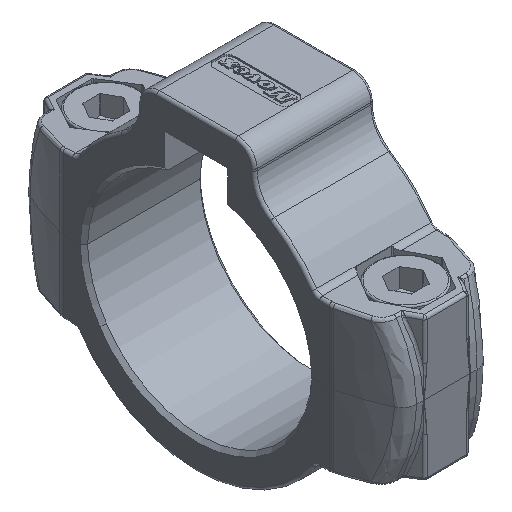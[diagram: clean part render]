
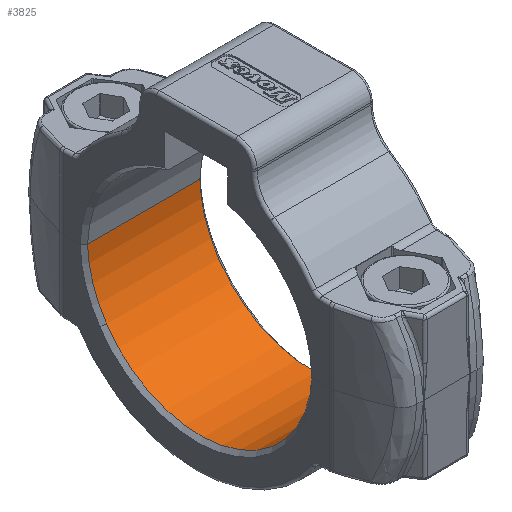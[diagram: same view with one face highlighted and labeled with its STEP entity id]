
A CAD part, isometric view. The second image highlights one B-rep face of the part: STEP entity #3825.
In plain terms, the highlighted cylindrical face has radius 15 mm (diameter 30 mm), a partial arc.
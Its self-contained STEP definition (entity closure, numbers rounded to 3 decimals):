
#2645=CARTESIAN_POINT('Vertex',(-7.5,-14.995,0.4)) ;
#2648=CARTESIAN_POINT('Line Origine',(0.,-14.995,0.4)) ;
#2652=CARTESIAN_POINT('Vertex',(7.5,-14.995,0.4)) ;
#3767=CARTESIAN_POINT('Axis2P3D Location',(-7.5,0.,0.)) ;
#3771=CARTESIAN_POINT('Vertex',(-7.5,-12.456,8.358)) ;
#3786=CARTESIAN_POINT('Axis2P3D Location',(0.,0.,0.)) ;
#3791=CARTESIAN_POINT('Axis2P3D Location',(-7.5,0.,0.)) ;
#3795=CARTESIAN_POINT('Vertex',(-7.5,14.995,0.4)) ;
#3798=CARTESIAN_POINT('Line Origine',(0.,14.995,0.4)) ;
#3802=CARTESIAN_POINT('Vertex',(7.5,14.995,0.4)) ;
#3805=CARTESIAN_POINT('Axis2P3D Location',(7.5,0.,0.)) ;
#3809=CARTESIAN_POINT('Vertex',(7.5,-12.456,8.358)) ;
#3812=CARTESIAN_POINT('Axis2P3D Location',(7.5,0.,0.)) ;
#2649=DIRECTION('Vector Direction',(1.,0.,0.)) ;
#3768=DIRECTION('Axis2P3D Direction',(-1.,0.,0.)) ;
#3787=DIRECTION('Axis2P3D Direction',(1.,0.,-0.)) ;
#3788=DIRECTION('Axis2P3D XDirection',(0.,1.,0.027)) ;
#3792=DIRECTION('Axis2P3D Direction',(1.,0.,-0.)) ;
#3799=DIRECTION('Vector Direction',(1.,0.,0.)) ;
#3806=DIRECTION('Axis2P3D Direction',(1.,0.,-0.)) ;
#3813=DIRECTION('Axis2P3D Direction',(1.,0.,-0.)) ;
#3769=AXIS2_PLACEMENT_3D('Circle Axis2P3D',#3767,#3768,$) ;
#3789=AXIS2_PLACEMENT_3D('Cylinder Axis2P3D',#3786,#3787,#3788) ;
#3793=AXIS2_PLACEMENT_3D('Circle Axis2P3D',#3791,#3792,$) ;
#3807=AXIS2_PLACEMENT_3D('Circle Axis2P3D',#3805,#3806,$) ;
#3814=AXIS2_PLACEMENT_3D('Circle Axis2P3D',#3812,#3813,$) ;
#3818=ORIENTED_EDGE('',*,*,#3773,.T.) ;
#3819=ORIENTED_EDGE('',*,*,#3797,.T.) ;
#3820=ORIENTED_EDGE('',*,*,#3804,.T.) ;
#3821=ORIENTED_EDGE('',*,*,#3811,.F.) ;
#3822=ORIENTED_EDGE('',*,*,#3816,.F.) ;
#3823=ORIENTED_EDGE('',*,*,#2654,.F.) ;
#2650=VECTOR('Line Direction',#2649,1.) ;
#3800=VECTOR('Line Direction',#3799,1.) ;
#3825=ADVANCED_FACE('PartBody',(#3824),#3790,.F.) ;
#3770=CIRCLE('generated circle',#3769,15.) ;
#3794=CIRCLE('generated circle',#3793,15.) ;
#3808=CIRCLE('generated circle',#3807,15.) ;
#3815=CIRCLE('generated circle',#3814,15.) ;
#3790=CYLINDRICAL_SURFACE('generated cylinder',#3789,15.) ;
#2654=EDGE_CURVE('',#2646,#2653,#2651,.T.) ;
#3773=EDGE_CURVE('',#2646,#3772,#3770,.T.) ;
#3797=EDGE_CURVE('',#3772,#3796,#3794,.F.) ;
#3804=EDGE_CURVE('',#3796,#3803,#3801,.T.) ;
#3811=EDGE_CURVE('',#3810,#3803,#3808,.F.) ;
#3816=EDGE_CURVE('',#2653,#3810,#3815,.F.) ;
#3817=EDGE_LOOP('',(#3818,#3819,#3820,#3821,#3822,#3823)) ;
#3824=FACE_OUTER_BOUND('',#3817,.T.) ;
#2651=LINE('Line',#2648,#2650) ;
#3801=LINE('Line',#3798,#3800) ;
#2646=VERTEX_POINT('',#2645) ;
#2653=VERTEX_POINT('',#2652) ;
#3772=VERTEX_POINT('',#3771) ;
#3796=VERTEX_POINT('',#3795) ;
#3803=VERTEX_POINT('',#3802) ;
#3810=VERTEX_POINT('',#3809) ;
